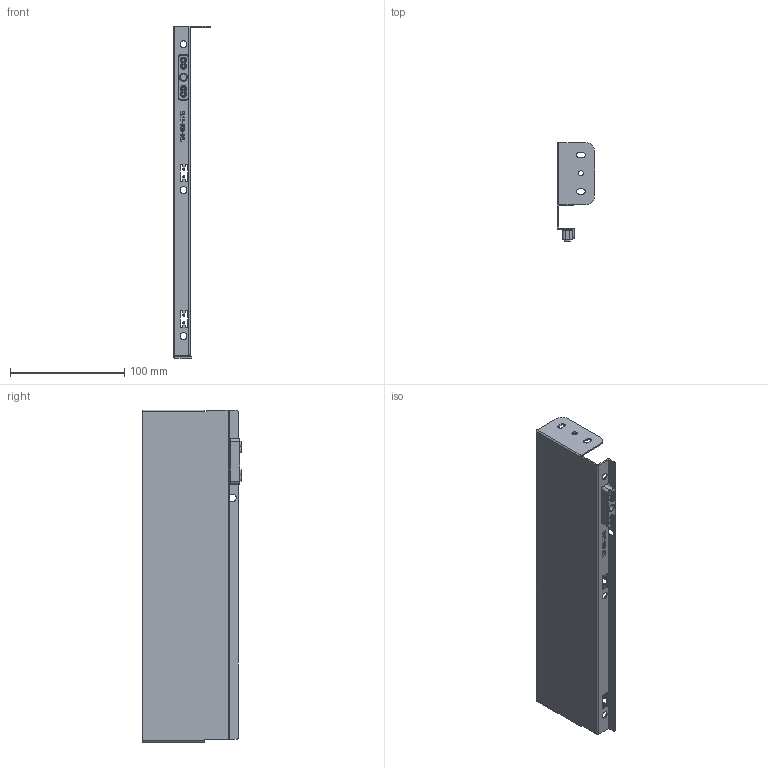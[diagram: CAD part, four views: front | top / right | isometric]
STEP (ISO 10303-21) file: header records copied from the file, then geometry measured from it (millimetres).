
FILE_DESCRIPTION (( 'STEP AP203' ), '1' );
FILE_NAME ('HL11300L.STEP', '2021-07-31T00:30:22', ( 'Users' ), ( 'Microsoft' ), 'SwSTEP 2.0', 'SolidWorks 2018', '' );
FILE_SCHEMA (( 'CONFIG_CONTROL_DESIGN' ));
Length unit declared in the file: millimetre
Products named in the file (1): HL11300L
Bounding box: 32.6 x 86.7 x 291.2 mm (x, y, z)
Volume: 39151.6 mm3; surface area: 63345.5 mm2
Topology: 1 solids, 1 shells, 369 faces, 984 edges, 634 vertices
Faces by surface type: plane 136, cylinder 123, torus 55, bspline 53, cone 2
Entity records: 14506 total; most frequent: CARTESIAN_POINT 5269, ORIENTED_EDGE 1960, DIRECTION 1867, EDGE_CURVE 980, AXIS2_PLACEMENT_3D 680, VERTEX_POINT 634, VECTOR 507, LINE 507
